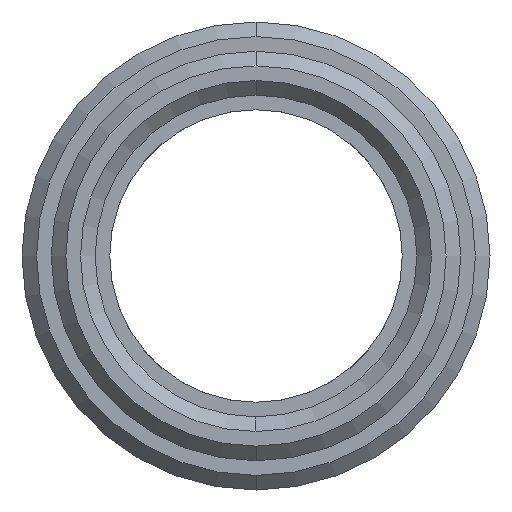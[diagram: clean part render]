
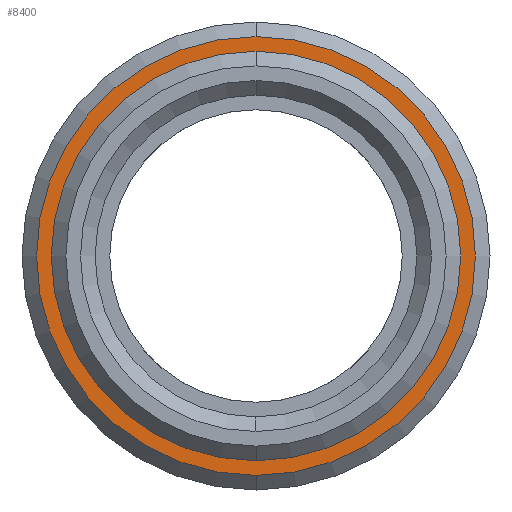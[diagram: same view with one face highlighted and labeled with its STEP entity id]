
A CAD part, left-side view. The second image highlights one B-rep face of the part: STEP entity #8400.
In plain terms, the highlighted planar face has unit normal (-1, 0, 0).
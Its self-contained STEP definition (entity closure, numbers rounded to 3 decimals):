
#3248=CARTESIAN_POINT('',(0.,0.,0.));
#3249=DIRECTION('',(1.,0.,0.));
#3250=DIRECTION('',(0.,0.,1.));
#3251=AXIS2_PLACEMENT_3D('',#3248,#3249,#3250);
#3253=CARTESIAN_POINT('',(0.,0.,0.));
#3254=DIRECTION('',(-1.,0.,0.));
#3255=DIRECTION('',(0.,0.,1.));
#3256=AXIS2_PLACEMENT_3D('',#3253,#3254,#3255);
#3258=CARTESIAN_POINT('',(0.,0.,0.));
#3259=DIRECTION('',(1.,0.,0.));
#3260=DIRECTION('',(0.,0.,-1.));
#3261=AXIS2_PLACEMENT_3D('',#3258,#3259,#3260);
#3263=CARTESIAN_POINT('',(0.,0.,0.));
#3264=DIRECTION('',(1.,0.,0.));
#3265=DIRECTION('',(0.,0.,1.));
#3266=AXIS2_PLACEMENT_3D('',#3263,#3264,#3265);
#6682=CARTESIAN_POINT('',(0.,0.,-7.5));
#6683=CARTESIAN_POINT('',(0.,0.,7.5));
#6684=VERTEX_POINT('',#6682);
#6685=VERTEX_POINT('',#6683);
#6906=CARTESIAN_POINT('',(0.,0.,7.));
#6907=CARTESIAN_POINT('',(0.,0.,-7.));
#6908=VERTEX_POINT('',#6906);
#6909=VERTEX_POINT('',#6907);
#8385=CARTESIAN_POINT('',(0.,0.,0.));
#8386=DIRECTION('',(1.,0.,0.));
#8387=DIRECTION('',(0.,0.,1.));
#8388=AXIS2_PLACEMENT_3D('',#8385,#8386,#8387);
#8389=PLANE('',#8388);
#8391=ORIENTED_EDGE('',*,*,#8390,.T.);
#8393=ORIENTED_EDGE('',*,*,#8392,.T.);
#8394=EDGE_LOOP('',(#8391,#8393));
#8395=FACE_OUTER_BOUND('',#8394,.F.);
#8396=ORIENTED_EDGE('',*,*,#8367,.F.);
#8397=ORIENTED_EDGE('',*,*,#8352,.T.);
#8398=EDGE_LOOP('',(#8396,#8397));
#8399=FACE_BOUND('',#8398,.F.);
#8400=ADVANCED_FACE('',(#8395,#8399),#8389,.F.);
#3252=CIRCLE('',#3251,7.);
#3257=CIRCLE('',#3256,7.);
#3262=CIRCLE('',#3261,7.5);
#3267=CIRCLE('',#3266,7.5);
#8352=EDGE_CURVE('',#6908,#6909,#3257,.T.);
#8367=EDGE_CURVE('',#6908,#6909,#3252,.T.);
#8390=EDGE_CURVE('',#6684,#6685,#3262,.T.);
#8392=EDGE_CURVE('',#6685,#6684,#3267,.T.);
